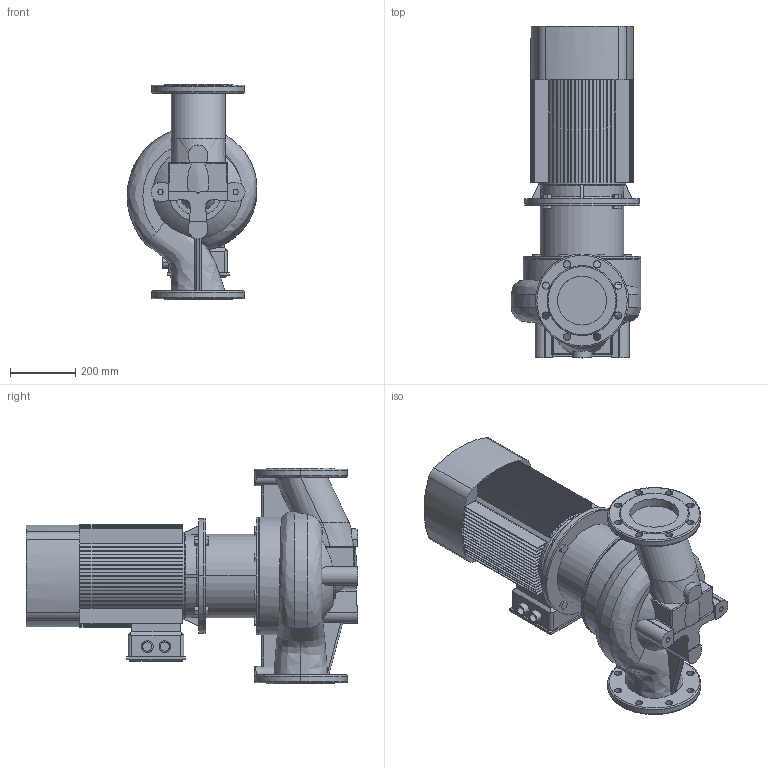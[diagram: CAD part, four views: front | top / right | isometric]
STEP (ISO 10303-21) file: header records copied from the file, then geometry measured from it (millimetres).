
FILE_DESCRIPTION (( 'STEP AP203' ), '1' );
FILE_NAME ('TD150-17G_4.STEP', '2022-05-02T17:24:04', ( '' ), ( '' ), 'SwSTEP 2.0', 'SolidWorks 2019', '' );
FILE_SCHEMA (( 'CONFIG_CONTROL_DESIGN' ));
Length unit declared in the file: millimetre
Products named in the file (4): Fon_150_TD150-17G_4; Pr_ch 150_TD150-17G_4; TD150-17G_4; ED_B5_YE2-160L-4 (15)
Assembly tree (3 placements, depth 2):
  TD150-17G_4
    Pr_ch 150_TD150-17G_4
    Fon_150_TD150-17G_4
    ED_B5_YE2-160L-4 (15)
Bounding box: 397.63 x 1016 x 660 mm (x, y, z)
Volume: 76111158.2 mm3; surface area: 3520560.6 mm2
Topology: 5 solids, 7 shells, 736 faces, 2020 edges, 1334 vertices
Faces by surface type: plane 498, cylinder 160, torus 33, bspline 26, cone 17, sphere 2
Entity records: 31364 total; most frequent: CARTESIAN_POINT 11991, ORIENTED_EDGE 4032, DIRECTION 3926, EDGE_CURVE 2016, AXIS2_PLACEMENT_3D 1366, VERTEX_POINT 1334, LINE 1194, VECTOR 1194
